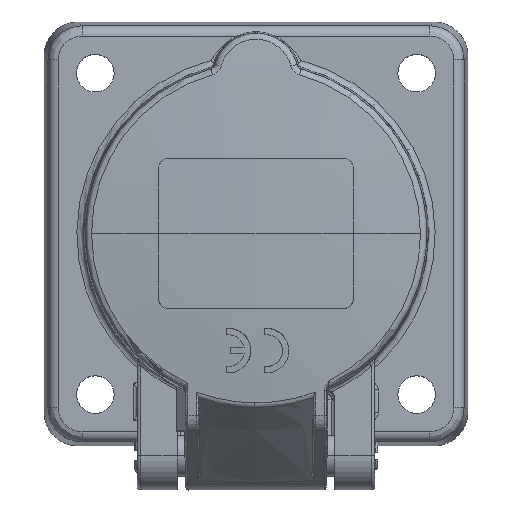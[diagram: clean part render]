
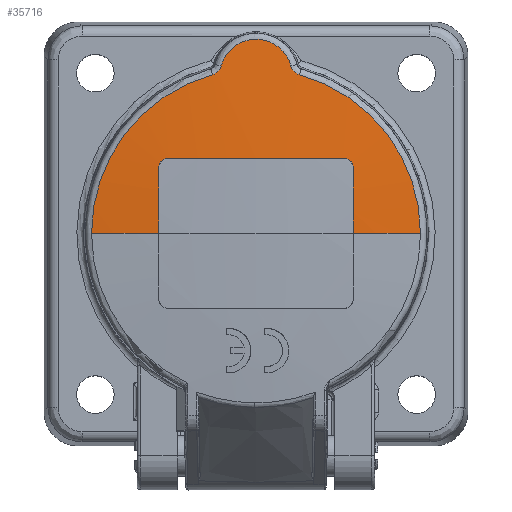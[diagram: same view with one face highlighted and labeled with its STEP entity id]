
A CAD part, top view. The second image highlights one B-rep face of the part: STEP entity #35716.
In plain terms, the highlighted spherical face has radius 250 mm.
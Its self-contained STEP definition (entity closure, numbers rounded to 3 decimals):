
#3451=CARTESIAN_POINT('',(14.25,0.,-199.3));
#3452=DIRECTION('',(1.,0.,0.));
#3453=DIRECTION('',(0.,0.038,0.999));
#3454=AXIS2_PLACEMENT_3D('',#3451,#3452,#3453);
#3456=CARTESIAN_POINT('',(12.75,11.,50.132));
#3457=CARTESIAN_POINT('',(12.837,11.,50.128));
#3458=CARTESIAN_POINT('',(13.012,10.985,50.119));
#3459=CARTESIAN_POINT('',(13.266,10.917,50.109));
#3460=CARTESIAN_POINT('',(13.504,10.805,50.101));
#3461=CARTESIAN_POINT('',(13.719,10.655,50.096));
#3462=CARTESIAN_POINT('',(13.905,10.469,50.093));
#3463=CARTESIAN_POINT('',(14.056,10.254,50.094));
#3464=CARTESIAN_POINT('',(14.167,10.015,50.097));
#3465=CARTESIAN_POINT('',(14.235,9.762,50.103));
#3466=CARTESIAN_POINT('',(14.25,9.587,50.109));
#3467=CARTESIAN_POINT('',(14.25,9.5,50.113));
#3469=CARTESIAN_POINT('',(0.,11.,-199.3));
#3470=DIRECTION('',(0.,1.,0.));
#3471=DIRECTION('',(-0.051,0.,0.999));
#3472=AXIS2_PLACEMENT_3D('',#3469,#3470,#3471);
#3474=CARTESIAN_POINT('',(-14.25,9.5,50.113));
#3475=CARTESIAN_POINT('',(-14.25,9.587,50.109));
#3476=CARTESIAN_POINT('',(-14.235,9.762,50.103));
#3477=CARTESIAN_POINT('',(-14.167,10.015,50.097));
#3478=CARTESIAN_POINT('',(-14.056,10.254,50.094));
#3479=CARTESIAN_POINT('',(-13.905,10.469,50.093));
#3480=CARTESIAN_POINT('',(-13.719,10.655,50.096));
#3481=CARTESIAN_POINT('',(-13.504,10.805,50.101));
#3482=CARTESIAN_POINT('',(-13.266,10.917,50.109));
#3483=CARTESIAN_POINT('',(-13.012,10.985,50.119));
#3484=CARTESIAN_POINT('',(-12.837,11.,50.128));
#3485=CARTESIAN_POINT('',(-12.75,11.,50.132));
#3487=CARTESIAN_POINT('',(-14.25,0.,-199.3));
#3488=DIRECTION('',(-1.,0.,0.));
#3489=DIRECTION('',(0.,0.,1.));
#3490=AXIS2_PLACEMENT_3D('',#3487,#3488,#3489);
#3492=CARTESIAN_POINT('',(0.,0.,-199.3));
#3493=DIRECTION('',(0.,1.,0.));
#3494=DIRECTION('',(-0.096,0.,0.995));
#3495=AXIS2_PLACEMENT_3D('',#3492,#3493,#3494);
#3497=CARTESIAN_POINT('',(0.,0.,49.54));
#3498=DIRECTION('',(0.,0.,1.));
#3499=DIRECTION('',(-0.265,0.964,0.));
#3500=AXIS2_PLACEMENT_3D('',#3497,#3498,#3499);
#3502=CARTESIAN_POINT('',(-5.101,24.472,49.447));
#3503=CARTESIAN_POINT('',(-5.125,24.385,49.455));
#3504=CARTESIAN_POINT('',(-5.184,24.215,49.471));
#3505=CARTESIAN_POINT('',(-5.31,23.976,49.491));
#3506=CARTESIAN_POINT('',(-5.47,23.759,49.508));
#3507=CARTESIAN_POINT('',(-5.661,23.567,49.522));
#3508=CARTESIAN_POINT('',(-5.877,23.407,49.532));
#3509=CARTESIAN_POINT('',(-6.114,23.282,49.539));
#3510=CARTESIAN_POINT('',(-6.279,23.223,49.54));
#3511=CARTESIAN_POINT('',(-6.364,23.199,49.54));
#3513=CARTESIAN_POINT('',(5.101,24.472,49.447));
#3514=CARTESIAN_POINT('',(5.041,24.697,49.426));
#3515=CARTESIAN_POINT('',(4.893,25.135,49.385));
#3516=CARTESIAN_POINT('',(4.585,25.759,49.327));
#3517=CARTESIAN_POINT('',(4.199,26.336,49.274));
#3518=CARTESIAN_POINT('',(3.741,26.858,49.225));
#3519=CARTESIAN_POINT('',(3.219,27.314,49.183));
#3520=CARTESIAN_POINT('',(2.643,27.698,49.147));
#3521=CARTESIAN_POINT('',(2.022,28.004,49.119));
#3522=CARTESIAN_POINT('',(1.367,28.225,49.098));
#3523=CARTESIAN_POINT('',(0.689,28.36,49.086));
#3524=CARTESIAN_POINT('',(-0.001,28.405,
49.081));
#3525=CARTESIAN_POINT('',(-0.691,28.36,
49.086));
#3526=CARTESIAN_POINT('',(-1.369,28.225,49.098));
#3527=CARTESIAN_POINT('',(-2.024,28.003,49.119));
#3528=CARTESIAN_POINT('',(-2.645,27.697,49.147));
#3529=CARTESIAN_POINT('',(-3.221,27.313,49.183));
#3530=CARTESIAN_POINT('',(-3.743,26.856,49.226));
#3531=CARTESIAN_POINT('',(-4.201,26.334,49.274));
#3532=CARTESIAN_POINT('',(-4.586,25.757,49.328));
#3533=CARTESIAN_POINT('',(-4.893,25.133,49.386));
#3534=CARTESIAN_POINT('',(-5.042,24.696,49.426));
#3535=CARTESIAN_POINT('',(-5.101,24.472,49.447));
#3537=CARTESIAN_POINT('',(6.364,23.199,49.54));
#3538=CARTESIAN_POINT('',(6.279,23.223,49.54));
#3539=CARTESIAN_POINT('',(6.112,23.282,49.539));
#3540=CARTESIAN_POINT('',(5.873,23.409,49.532));
#3541=CARTESIAN_POINT('',(5.658,23.57,49.522));
#3542=CARTESIAN_POINT('',(5.47,23.759,49.508));
#3543=CARTESIAN_POINT('',(5.31,23.976,49.491));
#3544=CARTESIAN_POINT('',(5.184,24.216,49.47));
#3545=CARTESIAN_POINT('',(5.125,24.385,49.455));
#3546=CARTESIAN_POINT('',(5.101,24.472,49.447));
#3548=CARTESIAN_POINT('',(0.,0.,49.54));
#3549=DIRECTION('',(0.,0.,1.));
#3550=DIRECTION('',(1.,0.,0.));
#3551=AXIS2_PLACEMENT_3D('',#3548,#3549,#3550);
#3553=CARTESIAN_POINT('',(0.,0.,-199.3));
#3554=DIRECTION('',(0.,-1.,0.));
#3555=DIRECTION('',(0.096,0.,0.995));
#3556=AXIS2_PLACEMENT_3D('',#3553,#3554,#3555);
#26354=CARTESIAN_POINT('',(14.25,9.5,50.113));
#26356=VERTEX_POINT('',#26354);
#26358=CARTESIAN_POINT('',(12.75,11.,50.132));
#26360=VERTEX_POINT('',#26358);
#26362=CARTESIAN_POINT('',(-12.75,11.,50.132));
#26364=VERTEX_POINT('',#26362);
#26366=CARTESIAN_POINT('',(-14.25,9.5,50.113));
#26368=VERTEX_POINT('',#26366);
#26484=CARTESIAN_POINT('',(-6.364,23.199,
49.54));
#26485=CARTESIAN_POINT('',(-24.057,0.,49.54));
#26486=VERTEX_POINT('',#26484);
#26487=VERTEX_POINT('',#26485);
#26488=VERTEX_POINT('',#3502);
#26491=VERTEX_POINT('',#3513);
#26493=VERTEX_POINT('',#3537);
#26495=CARTESIAN_POINT('',(24.057,0.,49.54));
#26496=VERTEX_POINT('',#26495);
#26507=CARTESIAN_POINT('',(14.25,0.,50.294));
#26508=VERTEX_POINT('',#26507);
#26509=CARTESIAN_POINT('',(-14.25,0.,50.294));
#26510=VERTEX_POINT('',#26509);
#35688=CARTESIAN_POINT('',(0.,0.,-199.3));
#35689=DIRECTION('',(0.,0.,-1.));
#35690=DIRECTION('',(-1.,0.,0.));
#35691=AXIS2_PLACEMENT_3D('',#35688,#35689,#35690);
#35692=SPHERICAL_SURFACE('1239',#35691,250.);
#35694=ORIENTED_EDGE('4529',*,*,#35693,.F.);
#35696=ORIENTED_EDGE('4530',*,*,#35695,.F.);
#35698=ORIENTED_EDGE('4531',*,*,#35697,.F.);
#35700=ORIENTED_EDGE('4532',*,*,#35699,.F.);
#35702=ORIENTED_EDGE('4533',*,*,#35701,.F.);
#35703=ORIENTED_EDGE('4535',*,*,#33090,.F.);
#35705=ORIENTED_EDGE('4499',*,*,#35704,.F.);
#35707=ORIENTED_EDGE('4500',*,*,#35706,.F.);
#35709=ORIENTED_EDGE('4502',*,*,#35708,.F.);
#35711=ORIENTED_EDGE('4504',*,*,#35710,.F.);
#35712=ORIENTED_EDGE('4506',*,*,#35673,.F.);
#35713=ORIENTED_EDGE('4534',*,*,#33102,.T.);
#35714=EDGE_LOOP('1239',(#35694,#35696,#35698,#35700,#35702,#35703,#35705,
#35707,#35709,#35711,#35712,#35713));
#35715=FACE_OUTER_BOUND('1239',#35714,.F.);
#3455=CIRCLE('4529',#3454,249.594);
#3468=B_SPLINE_CURVE_WITH_KNOTS('4530',3,(#3456,#3457,#3458,#3459,#3460,#3461,
#3462,#3463,#3464,#3465,#3466,#3467),.UNSPECIFIED.,.F.,.F.,(4,1,1,1,1,1,1,1,1,
4),(0.,0.111,0.222,0.333,
0.444,0.556,0.667,0.778,
0.889,1.),.UNSPECIFIED.);
#3473=CIRCLE('4531',#3472,249.758);
#3486=B_SPLINE_CURVE_WITH_KNOTS('4532',3,(#3474,#3475,#3476,#3477,#3478,#3479,
#3480,#3481,#3482,#3483,#3484,#3485),.UNSPECIFIED.,.F.,.F.,(4,1,1,1,1,1,1,1,1,
4),(0.,0.111,0.222,0.333,
0.444,0.556,0.667,0.778,
0.889,1.),.UNSPECIFIED.);
#3491=CIRCLE('4533',#3490,249.594);
#3496=CIRCLE('4535',#3495,250.);
#3501=CIRCLE('4499',#3500,24.057);
#3512=B_SPLINE_CURVE_WITH_KNOTS('4500',3,(#3502,#3503,#3504,#3505,#3506,#3507,
#3508,#3509,#3510,#3511),.UNSPECIFIED.,.F.,.F.,(4,1,1,1,1,1,1,4),(0.,
0.143,0.286,0.429,0.571,
0.714,0.857,1.),.UNSPECIFIED.);
#3536=B_SPLINE_CURVE_WITH_KNOTS('4502',3,(#3513,#3514,#3515,#3516,#3517,#3518,
#3519,#3520,#3521,#3522,#3523,#3524,#3525,#3526,#3527,#3528,#3529,#3530,#3531,
#3532,#3533,#3534,#3535),.UNSPECIFIED.,.F.,.F.,(4,1,1,1,1,1,1,1,1,1,1,1,1,1,1,1,
1,1,1,1,4),(0.,0.05,0.1,0.15,0.2,0.25,0.3,0.35,0.4,0.45,
0.5,0.55,0.6,0.65,0.7,0.75,0.8,0.85,0.9,0.95,1.),
.UNSPECIFIED.);
#3547=B_SPLINE_CURVE_WITH_KNOTS('4504',3,(#3537,#3538,#3539,#3540,#3541,#3542,
#3543,#3544,#3545,#3546),.UNSPECIFIED.,.F.,.F.,(4,1,1,1,1,1,1,4),(0.,
0.143,0.286,0.429,0.571,
0.714,0.857,1.),.UNSPECIFIED.);
#3552=CIRCLE('4506',#3551,24.057);
#3557=CIRCLE('4534',#3556,250.);
#33090=EDGE_CURVE('4535',#26487,#26510,#3496,.T.);
#33102=EDGE_CURVE('4534',#26496,#26508,#3557,.T.);
#35673=EDGE_CURVE('4506',#26496,#26493,#3552,.T.);
#35693=EDGE_CURVE('4529',#26356,#26508,#3455,.T.);
#35695=EDGE_CURVE('4530',#26360,#26356,#3468,.T.);
#35697=EDGE_CURVE('4531',#26364,#26360,#3473,.T.);
#35699=EDGE_CURVE('4532',#26368,#26364,#3486,.T.);
#35701=EDGE_CURVE('4533',#26510,#26368,#3491,.T.);
#35704=EDGE_CURVE('4499',#26486,#26487,#3501,.T.);
#35706=EDGE_CURVE('4500',#26488,#26486,#3512,.T.);
#35708=EDGE_CURVE('4502',#26491,#26488,#3536,.T.);
#35710=EDGE_CURVE('4504',#26493,#26491,#3547,.T.);
#35716=ADVANCED_FACE('1239',(#35715),#35692,.T.);
